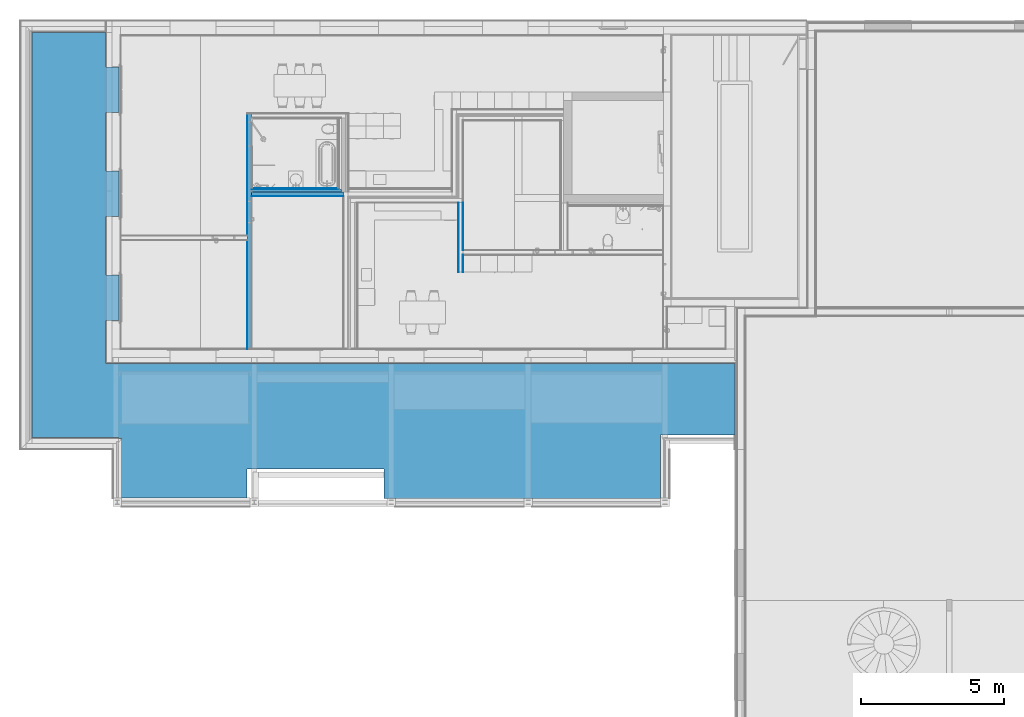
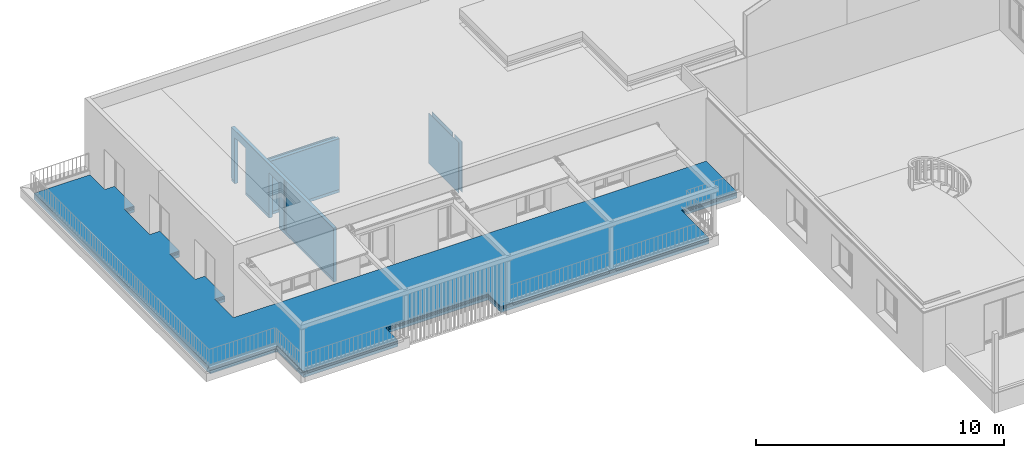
# One storey, part 8 of 36: 14 building element parts, 2 openings, 5 elements without a shape of their own.
"""IFC4 building model written with IfcOpenShell, lengths in millimetres."""

from ifc_helpers import new_model, entity, si_unit, converted_unit, derived_unit, direction, frame, origin_with_axes, place, context, subcontext, project, spatial, polygons, material, type_object, element, aggregate, save


model = new_model("IFC4")

# Units and contexts
model_context = context("Model", 3, precision=0.01, world=origin_with_axes(), true_north=direction((0.0, 1.0)))
body_context = subcontext(model_context, "Body", "Model", "MODEL_VIEW")
ifc_project = project(units=[si_unit("LENGTHUNIT", "METRE", prefix="MILLI"), si_unit("AREAUNIT", "SQUARE_METRE"), si_unit("VOLUMEUNIT", "CUBIC_METRE"), converted_unit("PLANEANGLEUNIT", "DEGREE", entity("IfcPlaneAngleMeasure", 0.0174532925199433), si_unit("PLANEANGLEUNIT", "RADIAN"), dimensions=[0, 0, 0, 0, 0, 0, 0]), converted_unit("TIMEUNIT", "Year", entity("IfcTimeMeasure", 31557600.0), si_unit("TIMEUNIT", "SECOND"), dimensions=[0, 0, 1, 0, 0, 0, 0]), si_unit("MASSUNIT", "GRAM", prefix="KILO"), si_unit("THERMODYNAMICTEMPERATUREUNIT", "DEGREE_CELSIUS"), si_unit("LUMINOUSINTENSITYUNIT", "LUMEN"), si_unit("ENERGYUNIT", "JOULE", prefix="MEGA"), derived_unit("THERMALCONDUCTANCEUNIT", [(si_unit("POWERUNIT", "WATT"), 1), (si_unit("LENGTHUNIT", "METRE"), -1), (si_unit("THERMODYNAMICTEMPERATUREUNIT", "KELVIN"), -1)]), derived_unit("SPECIFICHEATCAPACITYUNIT", [(si_unit("ENERGYUNIT", "JOULE"), 1), (si_unit("MASSUNIT", "GRAM", prefix="KILO"), -1), (si_unit("THERMODYNAMICTEMPERATUREUNIT", "KELVIN"), -1)]), derived_unit("MASSDENSITYUNIT", [(si_unit("MASSUNIT", "GRAM", prefix="KILO"), 1), (si_unit("VOLUMEUNIT", "CUBIC_METRE"), -1)])], contexts=[model_context])

# Site, building, storey
site_placement = place(None, origin_with_axes())
site = spatial("IfcSite", under=ifc_project, at=site_placement, Name="Gelände", CompositionType="ELEMENT")
building_placement = place(site_placement, origin_with_axes())
building = spatial("IfcBuilding", under=site, at=building_placement, Name="Gebäude", CompositionType="ELEMENT")
storey_placement = place(building_placement, frame((0.0, 0.0, 8700.0), z_axis=(0.0, 0.0, 1.0), x_axis=(1.0, 0.0, 0.0)))
storey = spatial("IfcBuildingStorey", under=building, at=storey_placement, Name="Attika", CompositionType="ELEMENT", Elevation=8700.0)

# Wall, building element parts
wall_type_1 = type_object("IfcWallType", Name="Innenwand Typ 05 170", PredefinedType="NOTDEFINED")
wall_1_placement = place(storey_placement, frame((8418.997444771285, 31582.59728131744, 0.0), z_axis=(0.0, 0.0, 1.0), x_axis=(0.0, -1.0, 0.0)))
wall_1 = element("IfcWall", 1, at=wall_1_placement, inside=storey, type_object=wall_type_1, Name="Wand-014", PredefinedType="NOTDEFINED")
ifc_material_1 = material(Name="Kalkzementputz Aussen")
building_element_part_1_placement = place(wall_1_placement, origin_with_axes())
building_element_part_1 = element("IfcBuildingElementPart", 2, at=building_element_part_1_placement, material=ifc_material_1, Name="Kalkzementputz Aussen", PredefinedType="NOTDEFINED", context=body_context, shape_type="Tessellation", body=[
    polygons([(1674.999999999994, 9.999999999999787, 150.0000000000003), (9.99999999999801, 10.00000000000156, 150.0000000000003), (9.99999999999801, 10.00000000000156, 2649.999948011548), (1674.999999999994, 9.999999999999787, 2649.999948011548), (9.99999999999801, 0.0, 150.0000000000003), (1674.999999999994, 0.0, 150.0000000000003), (9.99999999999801, 0.0, 2649.999948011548), (1674.999999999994, 0.0, 2649.999948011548)], [[[1, 2, 3, 4]], [[5, 2, 1, 6]], [[2, 5, 7, 3]], [[4, 3, 7, 8]], [[6, 1, 4, 8]], [[5, 6, 8, 7]]], closed=True),
    polygons([(2432.999999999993, 9.999999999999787, 150.0000000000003), (1824.999999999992, 9.999999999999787, 150.0000000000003), (1824.999999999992, 9.999999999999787, 2649.999948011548), (2432.999999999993, 9.999999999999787, 2649.999948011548), (1824.999999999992, 0.0, 150.0000000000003), (2432.999999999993, 0.0, 150.0000000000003), (1824.999999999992, 0.0, 2649.999948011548), (2432.999999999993, 0.0, 2649.999948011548)], [[[1, 2, 3, 4]], [[5, 2, 1, 6]], [[2, 5, 7, 3]], [[3, 7, 8, 4]], [[6, 1, 4, 8]], [[5, 6, 8, 7]]], closed=True),
])
building_element_part_2_placement = place(wall_1_placement, origin_with_axes())
building_element_part_2 = element("IfcBuildingElementPart", 3, at=building_element_part_2_placement, material=ifc_material_1, Name="Kalkzementputz Aussen", PredefinedType="NOTDEFINED", context=body_context, shape_type="Tessellation", body=[
    polygons([(2432.999999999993, -150.0000000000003, 150.0000000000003), (9.99999999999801, -149.9999999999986, 150.0000000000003), (9.99999999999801, -149.9999999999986, 2649.999948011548), (2432.999999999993, -150.0000000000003, 2649.999948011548), (9.99999999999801, -160.0000000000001, 150.0000000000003), (2432.999999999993, -160.0000000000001, 150.0000000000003), (9.99999999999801, -160.0000000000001, 2649.999948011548), (2432.999999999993, -160.0000000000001, 2649.999948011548)], [[[1, 2, 3, 4]], [[5, 2, 1, 6]], [[2, 5, 7, 3]], [[4, 3, 7, 8]], [[6, 1, 4, 8]], [[5, 6, 8, 7]]], closed=True),
])
aggregate(wall_1, [building_element_part_1, building_element_part_2])

wall_type_2 = type_object("IfcWallType", Name="Vorsatzschale 01 115", PredefinedType="NOTDEFINED")
wall_2_placement = place(storey_placement, frame((4050.773549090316, 32077.59728131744, 0.0), z_axis=(0.0, 0.0, 1.0), x_axis=(-1.0, 0.0, 0.0)))
wall_2 = element("IfcWall", 4, at=wall_2_placement, inside=storey, type_object=wall_type_2, Name="Wand-014", PredefinedType="NOTDEFINED")
ifc_material_2 = material(Name="Gipskartonplatte GKP")
building_element_part_3_placement = place(wall_2_placement, origin_with_axes())
building_element_part_3 = element("IfcBuildingElementPart", 5, at=building_element_part_3_placement, material=ifc_material_2, Name="Gipskartonplatte GKP", PredefinedType="NOTDEFINED", context=body_context, shape_type="Tessellation", body=[
    polygons([(3024.777730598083, 34.99999999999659, 0.0), (3024.777730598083, 22.50000000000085, 0.0), (-35.00000000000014, 22.50000000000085, 0.0), (-35.00000000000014, 34.99999999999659, 0.0), (3024.777730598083, 34.99999999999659, 2649.999948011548), (3024.777730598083, 22.50000000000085, 2649.999948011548), (-35.00000000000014, 22.50000000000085, 2649.999948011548), (-35.00000000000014, 35.00000000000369, 2649.999948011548)], [[[1, 2, 3, 4]], [[1, 5, 6, 2]], [[2, 6, 7, 3]], [[4, 3, 7, 8]], [[5, 1, 4, 8]], [[6, 5, 8, 7]]], closed=True),
])
building_element_part_4_placement = place(wall_2_placement, origin_with_axes())
building_element_part_4 = element("IfcBuildingElementPart", 6, at=building_element_part_4_placement, material=ifc_material_2, Name="Gipskartonplatte GKP", PredefinedType="NOTDEFINED", context=body_context, shape_type="Tessellation", body=[
    polygons([(3024.777730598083, 22.50000000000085, 0.0), (3024.777730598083, 9.99999999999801, 0.0), (-22.49999999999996, 9.99999999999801, 0.0), (-22.49999999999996, 22.50000000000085, 0.0), (3024.777730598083, 22.50000000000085, 2649.999948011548), (3024.777730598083, 9.99999999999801, 2649.999948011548), (-22.49999999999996, 9.99999999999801, 2649.999948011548), (-22.49999999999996, 22.50000000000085, 2649.999948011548)], [[[1, 2, 3, 4]], [[1, 5, 6, 2]], [[2, 6, 7, 3]], [[4, 3, 7, 8]], [[5, 1, 4, 8]], [[6, 5, 8, 7]]], closed=True),
])
building_element_part_5_placement = place(wall_2_placement, origin_with_axes())
building_element_part_5 = element("IfcBuildingElementPart", 7, at=building_element_part_5_placement, material=ifc_material_1, Name="Kalkzementputz Aussen", PredefinedType="NOTDEFINED", context=body_context, shape_type="Tessellation", body=[
    polygons([(-9.999999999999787, 9.99999999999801, 150.0000000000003), (-9.999999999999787, 0.0, 150.0000000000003), (-9.999999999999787, 0.0, 2649.999948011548), (-9.999999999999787, 9.99999999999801, 2649.999948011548), (3024.777730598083, 0.0, 150.0000000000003), (3024.777730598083, 9.99999999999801, 150.0000000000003), (3024.777730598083, 0.0, 2649.999948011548), (3024.777730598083, 9.99999999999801, 2649.999948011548)], [[[1, 2, 3, 4]], [[5, 2, 1, 6]], [[2, 5, 7, 3]], [[3, 7, 8, 4]], [[6, 1, 4, 8]], [[5, 6, 8, 7]]], closed=True),
])
ifc_material_3 = material(Name="Ständer Konstruktion gedämmt")
building_element_part_6_placement = place(wall_2_placement, origin_with_axes())
building_element_part_6 = element("IfcBuildingElementPart", 8, at=building_element_part_6_placement, material=ifc_material_3, Name="Ständer Konstruktion gedämmt", PredefinedType="NOTDEFINED", context=body_context, shape_type="Tessellation", body=[
    polygons([(3024.777730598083, 114.9999999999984, 0.0), (3024.777730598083, 34.99999999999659, 0.0), (-115.0000000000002, 34.99999999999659, 0.0), (-115.0000000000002, 114.9999999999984, 0.0), (3024.777730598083, 114.9999999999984, 2649.999948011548), (3024.777730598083, 34.99999999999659, 2649.999948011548), (-115.0000000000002, 35.00000000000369, 2649.999948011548), (-115.0000000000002, 114.9999999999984, 2649.999948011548)], [[[1, 2, 3, 4]], [[1, 5, 6, 2]], [[2, 6, 7, 3]], [[4, 3, 7, 8]], [[5, 1, 4, 8]], [[6, 5, 8, 7]]], closed=True),
])
aggregate(wall_2, [building_element_part_3, building_element_part_4, building_element_part_5, building_element_part_6])

# Wall, openings, building element parts
wall_3_placement = place(storey_placement, frame((865.9958184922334, 34704.06370406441, 0.0), z_axis=(0.0, 0.0, 1.0), x_axis=(0.0, -1.0, 0.0)))
wall_3 = element("IfcWall", 9, at=wall_3_placement, inside=storey, type_object=wall_type_1, Name="Wand-014", PredefinedType="NOTDEFINED")
opening_1_placement = place(wall_3_placement, frame((3451.466422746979, 0.0, 150.0000000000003), z_axis=(0.0, 0.0, 1.0), x_axis=(1.0, 0.0, 0.0)))
element("IfcOpeningElement", 10, at=opening_1_placement, cuts=wall_3, Name="Tür-011", context=body_context, identifier="Reference", shape_type="Tessellation", body=[
    polygons([(399.9999999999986, 171.0000000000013, 2100.0), (399.9999999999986, 171.0000000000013, -150.0000000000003), (-399.9999999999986, 171.0000000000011, -150.0000000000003), (-399.9999999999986, 171.0000000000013, 2100.0), (399.9999999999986, -1.000000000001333, 2100.0), (399.9999999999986, -1.000000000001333, -150.0000000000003), (-399.9999999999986, -1.000000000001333, -150.0000000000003), (-399.9999999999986, -1.000000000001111, 2100.0)], [[[1, 2, 3, 4]], [[5, 6, 2, 1]], [[6, 7, 3, 2]], [[7, 8, 4, 3]], [[8, 5, 1, 4]], [[7, 6, 5, 8]]], closed=True),
])
opening_2_placement = place(wall_3_placement, frame((719.9999999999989, 0.0, 150.0000000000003), z_axis=(0.0, 0.0, 1.0), x_axis=(1.0, 0.0, 0.0)))
element("IfcOpeningElement", 11, at=opening_2_placement, cuts=wall_3, Name="Tür-011", context=body_context, identifier="Reference", shape_type="Tessellation", body=[
    polygons([(445.0000000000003, 170.9999999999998, 2145.0), (445.0000000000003, 170.9999999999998, 0.0), (-445.0000000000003, 170.9999999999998, 0.0), (-445.0000000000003, 171.0, 2145.0), (445.0000000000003, -1.000000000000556, 2145.0), (445.0000000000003, -1.000000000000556, 0.0), (-445.0000000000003, -1.000000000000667, 0.0), (-445.0000000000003, -1.000000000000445, 2145.0)], [[[1, 2, 3, 4]], [[5, 6, 2, 1]], [[6, 7, 3, 2]], [[7, 8, 4, 3]], [[8, 5, 1, 4]], [[7, 6, 5, 8]]], closed=True),
])
building_element_part_7_placement = place(wall_3_placement, origin_with_axes())
building_element_part_7 = element("IfcBuildingElementPart", 12, at=building_element_part_7_placement, material=ifc_material_1, Name="Kalkzementputz Aussen", PredefinedType="NOTDEFINED", context=body_context, shape_type="Tessellation", body=[
    polygons([(1164.999999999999, 10.00000000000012, 150.0000000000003), (1164.999999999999, 10.00000000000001, 2295.0), (274.9999999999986, 10.00000000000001, 2295.0), (274.9999999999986, 10.00000000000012, 150.0000000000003), (0.0, 10.00000000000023, 150.0000000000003), (0.0, 10.00000000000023, 2649.999948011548), (4286.466963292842, 9.999999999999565, 2649.999948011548), (4286.466963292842, 9.999999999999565, 150.0000000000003), (3851.466422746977, 9.999999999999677, 150.0000000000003), (3851.466422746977, 9.999999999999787, 2250.0), (3051.46642274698, 9.999999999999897, 2250.0), (3051.466422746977, 9.999999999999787, 150.0000000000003), (1164.999999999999, 0.0, 150.0000000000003), (1164.999999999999, 0.0, 2295.0), (274.9999999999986, 0.0, 2295.0), (274.9999999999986, 0.0, 150.0000000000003), (0.0, 0.0, 150.0000000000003), (0.0, 0.0, 2649.999948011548), (4286.466963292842, 0.0, 2649.999948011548), (4286.466963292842, 0.0, 150.0000000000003), (3851.466422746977, 0.0, 150.0000000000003), (3851.466422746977, 0.0, 2250.0), (3051.46642274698, 0.0, 2250.0), (3051.466422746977, 0.0, 150.0000000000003)], [[[1, 2, 3, 4, 5, 6, 7, 8, 9, 10, 11, 12]], [[2, 1, 13, 14]], [[3, 2, 14, 15]], [[4, 3, 15, 16]], [[4, 16, 17, 5]], [[18, 6, 5, 17]], [[6, 18, 19, 7]], [[7, 19, 20, 8]], [[9, 8, 20, 21]], [[9, 21, 22, 10]], [[10, 22, 23, 11]], [[11, 23, 24, 12]], [[13, 1, 12, 24]], [[14, 13, 24, 23, 22, 21, 20, 19, 18, 17, 16, 15]]], closed=True),
    polygons([(8246.466963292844, 9.999999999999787, 150.0000000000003), (4436.466963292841, 9.999999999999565, 150.0000000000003), (4436.466963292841, 9.999999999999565, 2649.999948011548), (8246.466963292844, 9.999999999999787, 2649.999948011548), (4436.466963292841, 0.0, 150.0000000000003), (8246.466963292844, 0.0, 150.0000000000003), (4436.466963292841, 0.0, 2649.999948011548), (8246.466963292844, 0.0, 2649.999948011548)], [[[1, 2, 3, 4]], [[5, 2, 1, 6]], [[2, 5, 7, 3]], [[7, 8, 4, 3]], [[6, 1, 4, 8]], [[5, 6, 8, 7]]], closed=True),
])
ifc_material_4 = material(Name="MW, Backstein")
building_element_part_8_placement = place(wall_3_placement, origin_with_axes())
building_element_part_8 = element("IfcBuildingElementPart", 13, at=building_element_part_8_placement, material=ifc_material_4, Name="MW, Backstein", PredefinedType="NOTDEFINED", context=body_context, shape_type="Tessellation", body=[
    polygons([(1164.999999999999, 159.9999999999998, 150.0000000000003), (1164.999999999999, 160.0000000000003, 2295.0), (274.9999999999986, 160.0000000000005, 2295.0), (274.9999999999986, 160.0000000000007, 150.0000000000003), (274.9999999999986, 159.9999999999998, 0.0), (9.99999999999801, 160.0, 0.0), (9.99999999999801, 160.0000000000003, 2649.999948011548), (8246.466963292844, 159.9999999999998, 2649.999948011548), (8246.466963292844, 159.9999999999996, 0.0), (3851.466422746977, 160.0000000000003, 0.0), (3851.466422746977, 160.0, 150.0000000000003), (3851.466422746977, 160.0000000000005, 2250.0), (3051.46642274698, 160.0000000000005, 2250.0), (3051.46642274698, 159.9999999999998, 150.0000000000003), (3051.46642274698, 160.0000000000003, 0.0), (1164.999999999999, 160.0000000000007, 0.0), (1164.999999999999, 9.999999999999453, 150.0000000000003), (1164.999999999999, 9.999999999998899, 2295.0), (274.9999999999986, 9.999999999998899, 2295.0), (274.9999999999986, 10.00000000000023, 150.0000000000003), (274.9999999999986, 10.00000000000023, 0.0), (9.99999999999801, 10.00000000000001, 0.0), (9.99999999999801, 10.00000000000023, 2649.999948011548), (8246.466963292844, 9.999999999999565, 2649.999948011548), (8246.466963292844, 9.999999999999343, 0.0), (3851.466422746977, 9.999999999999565, 0.0), (3851.466422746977, 9.999999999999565, 150.0000000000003), (3851.466422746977, 9.999999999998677, 2250.0), (3051.46642274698, 9.999999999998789, 2250.0), (3051.46642274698, 9.999999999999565, 150.0000000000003), (3051.46642274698, 9.999999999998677, 0.0), (1164.999999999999, 9.999999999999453, 0.0)], [[[1, 2, 3, 4, 5, 6, 7, 8, 9, 10, 11, 12, 13, 14, 15, 16]], [[2, 1, 17, 18]], [[3, 2, 18, 19]], [[4, 3, 19, 20]], [[4, 20, 21, 5]], [[22, 6, 5, 21]], [[22, 23, 7, 6]], [[8, 7, 23, 24]], [[8, 24, 25, 9]], [[9, 25, 26, 10]], [[11, 10, 26, 27]], [[11, 27, 28, 12]], [[12, 28, 29, 13]], [[13, 29, 30, 14]], [[30, 31, 15, 14]], [[32, 16, 15, 31]], [[17, 1, 16, 32]], [[18, 17, 32, 31, 30, 29, 28, 27, 26, 25, 24, 23, 22, 21, 20, 19]]], closed=True),
])
aggregate(wall_3, [building_element_part_7, building_element_part_8])

# Wall, building element parts
wall_type_3 = type_object("IfcWallType", Name="Innenwand Typ 03 160", PredefinedType="NOTDEFINED")
wall_4_placement = place(storey_placement, frame((865.9958184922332, 31962.59728131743, 0.0), z_axis=(0.0, 0.0, 1.0), x_axis=(1.0, 0.0, 0.0)))
wall_4 = element("IfcWall", 14, at=wall_4_placement, inside=storey, type_object=wall_type_3, Name="Wand-014", PredefinedType="NOTDEFINED")
building_element_part_9_placement = place(wall_4_placement, origin_with_axes())
building_element_part_9 = element("IfcBuildingElementPart", 15, at=building_element_part_9_placement, material=ifc_material_4, Name="MW, Backstein", PredefinedType="NOTDEFINED", context=body_context, shape_type="Tessellation", body=[
    polygons([(3380.0, -149.9999999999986, 2649.999948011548), (3380.0, 0.0, 2649.999948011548), (159.9999999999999, 0.0, 2649.999948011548), (159.9999999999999, -149.9999999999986, 2649.999948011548), (3380.0, 0.0, 0.0), (3380.0, -149.9999999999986, 0.0), (159.9999999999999, 0.0, 0.0), (159.9999999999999, -149.9999999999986, 0.0)], [[[1, 2, 3, 4]], [[5, 2, 1, 6]], [[2, 5, 7, 3]], [[4, 3, 7, 8]], [[6, 1, 4, 8]], [[5, 6, 8, 7]]], closed=True),
])
building_element_part_10_placement = place(wall_4_placement, origin_with_axes())
building_element_part_10 = element("IfcBuildingElementPart", 16, at=building_element_part_10_placement, material=ifc_material_1, Name="Kalkzementputz Aussen", PredefinedType="NOTDEFINED", context=body_context, shape_type="Tessellation", body=[
    polygons([(3370.0, -160.0000000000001, 150.0000000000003), (3370.0, -149.9999999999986, 150.0000000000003), (3370.0, -149.9999999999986, 2649.999948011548), (3370.0, -160.0000000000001, 2649.999948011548), (170.0000000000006, -149.9999999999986, 150.0000000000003), (170.0000000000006, -160.0000000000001, 150.0000000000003), (170.0000000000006, -149.9999999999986, 2649.999948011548), (170.0000000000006, -160.0000000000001, 2649.999948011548)], [[[1, 2, 3, 4]], [[5, 2, 1, 6]], [[2, 5, 7, 3]], [[8, 4, 3, 7]], [[6, 1, 4, 8]], [[5, 6, 8, 7]]], closed=True),
])
aggregate(wall_4, [building_element_part_9, building_element_part_10])

# Covering, building element parts
covering_type = type_object("IfcCoveringType", Name="Bodenaufbau Typ 03 - Terrasse 300", PredefinedType="NOTDEFINED")
covering_placement = place(storey_placement, frame((-6681.004181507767, 23337.59674077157, 0.0), z_axis=(0.0, 0.0, 1.0), x_axis=(1.0, 0.0, 0.0)))
covering = element("IfcCovering", 17, at=covering_placement, inside=storey, type_object=covering_type, Name="Decke-007", PredefinedType="NOTDEFINED")
ifc_material_5 = material(Name="Keramik")
building_element_part_11_placement = place(covering_placement, origin_with_axes())
building_element_part_11 = element("IfcBuildingElementPart", 18, at=building_element_part_11_placement, material=ifc_material_5, Name="Keramik", PredefinedType="NOTDEFINED", context=body_context, shape_type="Tessellation", body=[
    polygons([(2610.0, 14200.00054054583, 270.0000000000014), (2610.0, 14200.00054054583, 300.0000000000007), (2610.0, 12998.00054054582, 300.0000000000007), (2610.0, 12998.00054054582, 270.0000000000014), (20.00000000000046, 14200.00054054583, 300.0000000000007), (20.00000000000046, 14200.00054054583, 270.0000000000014), (19.99999999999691, 20.00000000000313, 300.0000000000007), (3055.800000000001, 20.00000000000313, 300.0000000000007), (3055.800000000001, 0.0, 300.0000000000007), (3155.8, 0.0, 300.0000000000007), (3155.8, -2089.999999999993, 300.0000000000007), (7550.965907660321, -2089.999999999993, 300.0000000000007), (7550.965907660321, -1080.00000168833, 300.0000000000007), (12337.39999999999, -1080.00000168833, 300.0000000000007), (12337.39999999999, -2114.259563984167, 300.0000000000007), (22019.0, -2114.259563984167, 300.0000000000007), (22019.00000000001, 120.0000000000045, 300.0000000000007), (24610.00162627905, 120.0000000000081, 300.0000000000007), (24610.00162627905, 2610.000000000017, 300.0000000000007), (2610.0, 2610.000000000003, 300.0000000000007), (2610.0, 4114.000540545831, 300.0000000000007), (3070.0, 4114.000540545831, 300.0000000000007), (3070.0, 5714.000540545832, 300.0000000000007), (2610.0, 5714.000540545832, 300.0000000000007), (2610.0, 7756.000540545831, 300.0000000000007), (3070.000000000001, 7756.000540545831, 300.0000000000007), (3070.000000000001, 9356.17832024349, 300.0000000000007), (2610.0, 9356.17832024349, 300.0000000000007), (2610.0, 11398.00054054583, 300.0000000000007), (3070.000000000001, 11398.00054054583, 300.0000000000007), (3070.000000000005, 12998.00054054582, 300.0000000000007), (3070.000000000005, 12998.00054054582, 270.0000000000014), (3070.000000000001, 11398.00054054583, 270.0000000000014), (2610.0, 11398.00054054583, 270.0000000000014), (2610.0, 9356.17832024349, 270.0000000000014), (3070.000000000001, 9356.17832024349, 270.0000000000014), (3070.000000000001, 7756.000540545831, 270.0000000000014), (2610.0, 7756.000540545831, 270.0000000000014), (2610.0, 5714.000540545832, 270.0000000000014), (3070.0, 5714.000540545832, 270.0000000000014), (3070.0, 4114.000540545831, 270.0000000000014), (2610.0, 4114.000540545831, 270.0000000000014), (2610.0, 2610.000000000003, 270.0000000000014), (24610.00162627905, 2610.000000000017, 270.0000000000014), (24610.00162627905, 120.0000000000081, 270.0000000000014), (22019.00000000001, 120.0000000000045, 270.0000000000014), (22019.0, -2114.259563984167, 270.0000000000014), (12337.39999999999, -2114.259563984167, 270.0000000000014), (12337.39999999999, -1080.00000168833, 270.0000000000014), (7550.965907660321, -1080.00000168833, 270.0000000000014), (7550.965907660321, -2089.999999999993, 270.0000000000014), (3155.8, -2089.999999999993, 270.0000000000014), (3155.8, 0.0, 270.0000000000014), (3055.800000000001, 0.0, 270.0000000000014), (3055.800000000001, 20.00000000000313, 270.0000000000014), (19.99999999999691, 20.00000000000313, 270.0000000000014)], [[[1, 2, 3, 4]], [[5, 2, 1, 6]], [[2, 5, 7, 8, 9, 10, 11, 12, 13, 14, 15, 16, 17, 18, 19, 20, 21, 22, 23, 24, 25, 26, 27, 28, 29, 30, 31, 3]], [[32, 4, 3, 31]], [[6, 1, 4, 32, 33, 34, 35, 36, 37, 38, 39, 40, 41, 42, 43, 44, 45, 46, 47, 48, 49, 50, 51, 52, 53, 54, 55, 56]], [[5, 6, 56, 7]], [[8, 7, 56, 55]], [[9, 8, 55, 54]], [[9, 54, 53, 10]], [[53, 52, 11, 10]], [[52, 51, 12, 11]], [[51, 50, 13, 12]], [[50, 49, 14, 13]], [[49, 48, 15, 14]], [[48, 47, 16, 15]], [[47, 46, 17, 16]], [[46, 45, 18, 17]], [[45, 44, 19, 18]], [[44, 43, 20, 19]], [[43, 42, 21, 20]], [[42, 41, 22, 21]], [[41, 40, 23, 22]], [[40, 39, 24, 23]], [[39, 38, 25, 24]], [[38, 37, 26, 25]], [[37, 36, 27, 26]], [[36, 35, 28, 27]], [[35, 34, 29, 28]], [[34, 33, 30, 29]], [[33, 32, 31, 30]]], closed=True),
])
ifc_material_6 = material(Name="Unterlagsboden")
building_element_part_12_placement = place(covering_placement, origin_with_axes())
building_element_part_12 = element("IfcBuildingElementPart", 19, at=building_element_part_12_placement, material=ifc_material_6, Name="Unterlagsboden", PredefinedType="NOTDEFINED", context=body_context, shape_type="Tessellation", body=[
    polygons([(2610.0, 14200.00054054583, 210.0000000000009), (2610.0, 14200.00054054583, 270.0000000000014), (2610.0, 12998.00054054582, 270.0000000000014), (2610.0, 12998.00054054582, 210.0000000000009), (20.00000000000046, 14200.00054054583, 270.0000000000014), (20.00000000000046, 14200.00054054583, 210.0000000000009), (19.99999999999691, 20.00000000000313, 270.0000000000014), (3055.800000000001, 20.00000000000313, 270.0000000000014), (3055.800000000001, 0.0, 270.0000000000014), (3155.8, 0.0, 270.0000000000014), (3155.8, -2089.999999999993, 270.0000000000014), (7550.965907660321, -2089.999999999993, 270.0000000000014), (7550.965907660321, -1080.00000168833, 270.0000000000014), (12337.39999999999, -1080.00000168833, 270.0000000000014), (12337.39999999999, -2114.259563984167, 270.0000000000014), (22019.0, -2114.259563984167, 270.0000000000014), (22019.00000000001, 120.0000000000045, 270.0000000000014), (24610.00162627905, 120.0000000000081, 270.0000000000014), (24610.00162627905, 2610.000000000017, 270.0000000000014), (2610.0, 2610.000000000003, 270.0000000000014), (2610.0, 4114.000540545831, 270.0000000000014), (3070.0, 4114.000540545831, 270.0000000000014), (3070.0, 5714.000540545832, 270.0000000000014), (2610.0, 5714.000540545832, 270.0000000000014), (2610.0, 7756.000540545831, 270.0000000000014), (3070.000000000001, 7756.000540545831, 270.0000000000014), (3070.000000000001, 9356.17832024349, 270.0000000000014), (2610.0, 9356.17832024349, 270.0000000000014), (2610.0, 11398.00054054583, 270.0000000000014), (3070.000000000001, 11398.00054054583, 270.0000000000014), (3070.000000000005, 12998.00054054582, 270.0000000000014), (3070.000000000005, 12998.00054054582, 210.0000000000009), (3070.000000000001, 11398.00054054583, 210.0000000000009), (2610.0, 11398.00054054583, 210.0000000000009), (2610.0, 9356.17832024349, 210.0000000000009), (3070.000000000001, 9356.17832024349, 210.0000000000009), (3070.000000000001, 7756.000540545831, 210.0000000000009), (2610.0, 7756.000540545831, 210.0000000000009), (2610.0, 5714.000540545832, 210.0000000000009), (3070.0, 5714.000540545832, 210.0000000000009), (3070.0, 4114.000540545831, 210.0000000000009), (2610.0, 4114.000540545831, 210.0000000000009), (2610.0, 2610.000000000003, 210.0000000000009), (24610.00162627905, 2610.000000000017, 210.0000000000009), (24610.00162627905, 120.0000000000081, 210.0000000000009), (22019.00000000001, 120.0000000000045, 210.0000000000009), (22019.0, -2114.259563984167, 210.0000000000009), (12337.39999999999, -2114.259563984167, 210.0000000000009), (12337.39999999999, -1080.00000168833, 210.0000000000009), (7550.965907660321, -1080.00000168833, 210.0000000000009), (7550.965907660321, -2089.999999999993, 210.0000000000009), (3155.8, -2089.999999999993, 210.0000000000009), (3155.8, 0.0, 210.0000000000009), (3055.800000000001, 0.0, 210.0000000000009), (3055.800000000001, 20.00000000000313, 210.0000000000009), (19.99999999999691, 20.00000000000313, 210.0000000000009)], [[[1, 2, 3, 4]], [[5, 2, 1, 6]], [[2, 5, 7, 8, 9, 10, 11, 12, 13, 14, 15, 16, 17, 18, 19, 20, 21, 22, 23, 24, 25, 26, 27, 28, 29, 30, 31, 3]], [[32, 4, 3, 31]], [[6, 1, 4, 32, 33, 34, 35, 36, 37, 38, 39, 40, 41, 42, 43, 44, 45, 46, 47, 48, 49, 50, 51, 52, 53, 54, 55, 56]], [[5, 6, 56, 7]], [[8, 7, 56, 55]], [[9, 8, 55, 54]], [[9, 54, 53, 10]], [[53, 52, 11, 10]], [[52, 51, 12, 11]], [[51, 50, 13, 12]], [[50, 49, 14, 13]], [[49, 48, 15, 14]], [[48, 47, 16, 15]], [[47, 46, 17, 16]], [[46, 45, 18, 17]], [[45, 44, 19, 18]], [[44, 43, 20, 19]], [[43, 42, 21, 20]], [[42, 41, 22, 21]], [[41, 40, 23, 22]], [[40, 39, 24, 23]], [[39, 38, 25, 24]], [[38, 37, 26, 25]], [[37, 36, 27, 26]], [[36, 35, 28, 27]], [[35, 34, 29, 28]], [[34, 33, 30, 29]], [[33, 32, 31, 30]]], closed=True),
])
building_element_part_13_placement = place(covering_placement, origin_with_axes())
building_element_part_13 = element("IfcBuildingElementPart", 20, at=building_element_part_13_placement, PredefinedType="NOTDEFINED", context=body_context, shape_type="Tessellation", body=[
    polygons([(2610.0, 14200.00054054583, 150.0000000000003), (2610.0, 14200.00054054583, 210.0000000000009), (2610.0, 12998.00054054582, 210.0000000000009), (2610.0, 12998.00054054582, 150.0000000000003), (20.00000000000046, 14200.00054054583, 210.0000000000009), (20.00000000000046, 14200.00054054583, 150.0000000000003), (19.99999999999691, 20.00000000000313, 210.0000000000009), (3055.800000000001, 20.00000000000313, 210.0000000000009), (3055.800000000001, 0.0, 210.0000000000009), (3155.8, 0.0, 210.0000000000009), (3155.8, -2089.999999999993, 210.0000000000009), (7550.965907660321, -2089.999999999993, 210.0000000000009), (7550.965907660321, -1080.00000168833, 210.0000000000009), (12337.39999999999, -1080.00000168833, 210.0000000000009), (12337.39999999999, -2114.259563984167, 210.0000000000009), (22019.0, -2114.259563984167, 210.0000000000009), (22019.00000000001, 120.0000000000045, 210.0000000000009), (24610.00162627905, 120.0000000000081, 210.0000000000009), (24610.00162627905, 2610.000000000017, 210.0000000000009), (2610.0, 2610.000000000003, 210.0000000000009), (2610.0, 4114.000540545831, 210.0000000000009), (3070.0, 4114.000540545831, 210.0000000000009), (3070.0, 5714.000540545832, 210.0000000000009), (2610.0, 5714.000540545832, 210.0000000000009), (2610.0, 7756.000540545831, 210.0000000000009), (3070.000000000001, 7756.000540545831, 210.0000000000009), (3070.000000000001, 9356.17832024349, 210.0000000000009), (2610.0, 9356.17832024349, 210.0000000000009), (2610.0, 11398.00054054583, 210.0000000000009), (3070.000000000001, 11398.00054054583, 210.0000000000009), (3070.000000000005, 12998.00054054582, 210.0000000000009), (3070.000000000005, 12998.00054054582, 150.0000000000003), (3070.000000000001, 11398.00054054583, 150.0000000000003), (2610.0, 11398.00054054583, 150.0000000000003), (2610.0, 9356.17832024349, 150.0000000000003), (3070.000000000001, 9356.17832024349, 150.0000000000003), (3070.000000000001, 7756.000540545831, 150.0000000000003), (2610.0, 7756.000540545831, 150.0000000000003), (2610.0, 5714.000540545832, 150.0000000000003), (3070.0, 5714.000540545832, 150.0000000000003), (3070.0, 4114.000540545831, 150.0000000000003), (2610.0, 4114.000540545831, 150.0000000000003), (2610.0, 2610.000000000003, 150.0000000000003), (24610.00162627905, 2610.000000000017, 150.0000000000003), (24610.00162627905, 120.0000000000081, 150.0000000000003), (22019.00000000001, 120.0000000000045, 150.0000000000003), (22019.0, -2114.259563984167, 150.0000000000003), (12337.39999999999, -2114.259563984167, 150.0000000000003), (12337.39999999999, -1080.00000168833, 150.0000000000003), (7550.965907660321, -1080.00000168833, 150.0000000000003), (7550.965907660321, -2089.999999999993, 150.0000000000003), (3155.8, -2089.999999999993, 150.0000000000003), (3155.8, 0.0, 150.0000000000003), (3055.800000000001, 0.0, 150.0000000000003), (3055.800000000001, 20.00000000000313, 150.0000000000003), (19.99999999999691, 20.00000000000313, 150.0000000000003)], [[[1, 2, 3, 4]], [[5, 2, 1, 6]], [[2, 5, 7, 8, 9, 10, 11, 12, 13, 14, 15, 16, 17, 18, 19, 20, 21, 22, 23, 24, 25, 26, 27, 28, 29, 30, 31, 3]], [[32, 4, 3, 31]], [[6, 1, 4, 32, 33, 34, 35, 36, 37, 38, 39, 40, 41, 42, 43, 44, 45, 46, 47, 48, 49, 50, 51, 52, 53, 54, 55, 56]], [[5, 6, 56, 7]], [[8, 7, 56, 55]], [[9, 8, 55, 54]], [[9, 54, 53, 10]], [[53, 52, 11, 10]], [[52, 51, 12, 11]], [[51, 50, 13, 12]], [[50, 49, 14, 13]], [[49, 48, 15, 14]], [[48, 47, 16, 15]], [[47, 46, 17, 16]], [[46, 45, 18, 17]], [[45, 44, 19, 18]], [[44, 43, 20, 19]], [[43, 42, 21, 20]], [[42, 41, 22, 21]], [[41, 40, 23, 22]], [[40, 39, 24, 23]], [[39, 38, 25, 24]], [[38, 37, 26, 25]], [[37, 36, 27, 26]], [[36, 35, 28, 27]], [[35, 34, 29, 28]], [[34, 33, 30, 29]], [[33, 32, 31, 30]]], closed=True),
])
ifc_material_7 = material(Name="Dämmung Aussen")
building_element_part_14_placement = place(covering_placement, origin_with_axes())
building_element_part_14 = element("IfcBuildingElementPart", 21, at=building_element_part_14_placement, material=ifc_material_7, Name="Dämmung Aussen", PredefinedType="NOTDEFINED", context=body_context, shape_type="Tessellation", body=[
    polygons([(2610.0, 12998.00054054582, 0.0), (2610.0, 14200.00054054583, 0.0), (2610.0, 14200.00054054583, 150.0000000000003), (2610.0, 12998.00054054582, 150.0000000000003), (19.99999999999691, 20.00000000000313, 0.0), (20.00000000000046, 14200.00054054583, 0.0), (3070.000000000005, 12998.00054054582, 0.0), (3070.000000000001, 11398.00054054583, 0.0), (2610.0, 11398.00054054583, 0.0), (2610.0, 9356.17832024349, 0.0), (3070.000000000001, 9356.17832024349, 0.0), (3070.000000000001, 7756.000540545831, 0.0), (2610.0, 7756.000540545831, 0.0), (2610.0, 5714.000540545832, 0.0), (3070.0, 5714.000540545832, 0.0), (3070.0, 4114.000540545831, 0.0), (2610.0, 4114.000540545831, 0.0), (2610.0, 2610.000000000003, 0.0), (24610.00162627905, 2610.000000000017, 0.0), (24610.00162627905, 120.0000000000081, 0.0), (22019.00000000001, 120.0000000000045, 0.0), (22019.0, -2114.259563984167, 0.0), (12337.39999999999, -2114.259563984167, 0.0), (12337.39999999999, -1080.00000168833, 0.0), (7550.965907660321, -1080.00000168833, 0.0), (7550.965907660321, -2089.999999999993, 0.0), (3155.8, -2089.999999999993, 0.0), (3155.8, 0.0, 0.0), (3055.800000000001, 0.0, 0.0), (3055.800000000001, 20.00000000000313, 0.0), (20.00000000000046, 14200.00054054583, 150.0000000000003), (19.99999999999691, 20.00000000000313, 150.0000000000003), (3055.800000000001, 20.00000000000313, 150.0000000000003), (3055.800000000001, 0.0, 150.0000000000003), (3155.8, 0.0, 150.0000000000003), (3155.8, -2089.999999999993, 150.0000000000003), (7550.965907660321, -2089.999999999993, 150.0000000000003), (7550.965907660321, -1080.00000168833, 150.0000000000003), (12337.39999999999, -1080.00000168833, 150.0000000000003), (12337.39999999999, -2114.259563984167, 150.0000000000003), (22019.0, -2114.259563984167, 150.0000000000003), (22019.00000000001, 120.0000000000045, 150.0000000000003), (24610.00162627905, 120.0000000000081, 150.0000000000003), (24610.00162627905, 2610.000000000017, 150.0000000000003), (2610.0, 2610.000000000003, 150.0000000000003), (2610.0, 4114.000540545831, 150.0000000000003), (3070.0, 4114.000540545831, 150.0000000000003), (3070.0, 5714.000540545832, 150.0000000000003), (2610.0, 5714.000540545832, 150.0000000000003), (2610.0, 7756.000540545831, 150.0000000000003), (3070.000000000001, 7756.000540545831, 150.0000000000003), (3070.000000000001, 9356.17832024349, 150.0000000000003), (2610.0, 9356.17832024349, 150.0000000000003), (2610.0, 11398.00054054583, 150.0000000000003), (3070.000000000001, 11398.00054054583, 150.0000000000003), (3070.000000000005, 12998.00054054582, 150.0000000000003)], [[[1, 2, 3, 4]], [[5, 6, 2, 1, 7, 8, 9, 10, 11, 12, 13, 14, 15, 16, 17, 18, 19, 20, 21, 22, 23, 24, 25, 26, 27, 28, 29, 30]], [[6, 31, 3, 2]], [[4, 3, 31, 32, 33, 34, 35, 36, 37, 38, 39, 40, 41, 42, 43, 44, 45, 46, 47, 48, 49, 50, 51, 52, 53, 54, 55, 56]], [[4, 56, 7, 1]], [[32, 31, 6, 5]], [[56, 55, 8, 7]], [[55, 54, 9, 8]], [[54, 53, 10, 9]], [[53, 52, 11, 10]], [[52, 51, 12, 11]], [[51, 50, 13, 12]], [[50, 49, 14, 13]], [[49, 48, 15, 14]], [[48, 47, 16, 15]], [[47, 46, 17, 16]], [[46, 45, 18, 17]], [[45, 44, 19, 18]], [[44, 43, 20, 19]], [[43, 42, 21, 20]], [[42, 41, 22, 21]], [[41, 40, 23, 22]], [[40, 39, 24, 23]], [[39, 38, 25, 24]], [[38, 37, 26, 25]], [[37, 36, 27, 26]], [[36, 35, 28, 27]], [[35, 34, 29, 28]], [[29, 34, 33, 30]], [[30, 33, 32, 5]]], closed=True),
])
aggregate(covering, [building_element_part_11, building_element_part_12, building_element_part_13, building_element_part_14])

save(model, "model.ifc")
